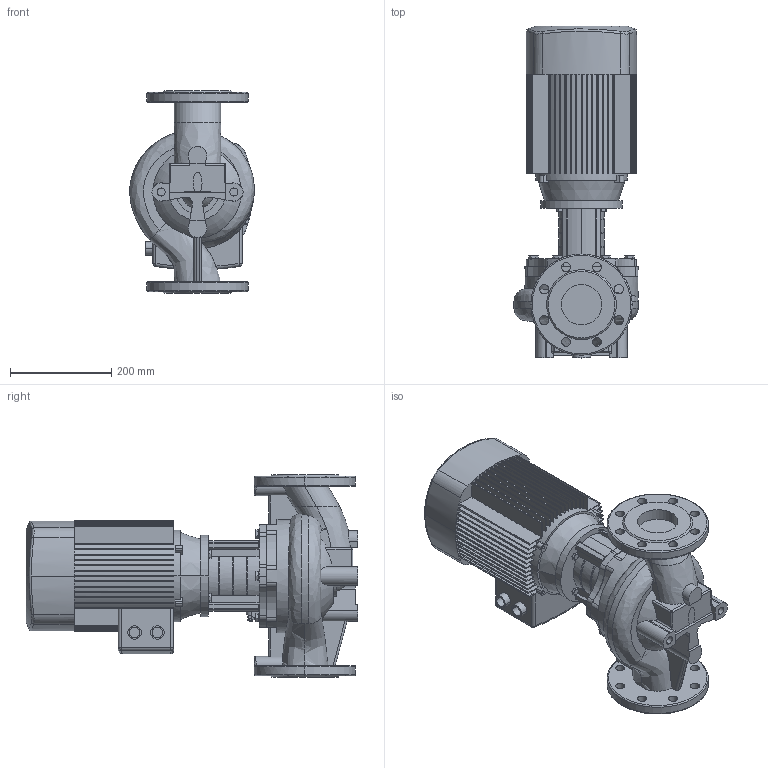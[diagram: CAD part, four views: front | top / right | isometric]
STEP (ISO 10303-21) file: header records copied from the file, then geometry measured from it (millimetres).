
FILE_DESCRIPTION (( 'STEP AP203' ), '1' );
FILE_NAME ('TD80-18G／2.STEP', '2026-09-07T02:30:34', ( '' ), ( '' ), 'SwSTEP 2.0', 'SolidWorks 2020', '' );
FILE_SCHEMA (( 'CONFIG_CONTROL_DESIGN' ));
Length unit declared in the file: millimetre
Products named in the file (1): TD80-18Gㄞ2
Bounding box: 245.94 x 656 x 400 mm (x, y, z)
Volume: 21338028.2 mm3; surface area: 1256064.1 mm2
Topology: 1 solids, 11 shells, 1051 faces, 2853 edges, 1854 vertices
Faces by surface type: plane 585, cylinder 256, cone 95, bspline 57, torus 52, sphere 6
Entity records: 44942 total; most frequent: CARTESIAN_POINT 18609, ORIENTED_EDGE 5694, DIRECTION 5289, EDGE_CURVE 2847, AXIS2_PLACEMENT_3D 1924, VERTEX_POINT 1854, VECTOR 1441, LINE 1441
